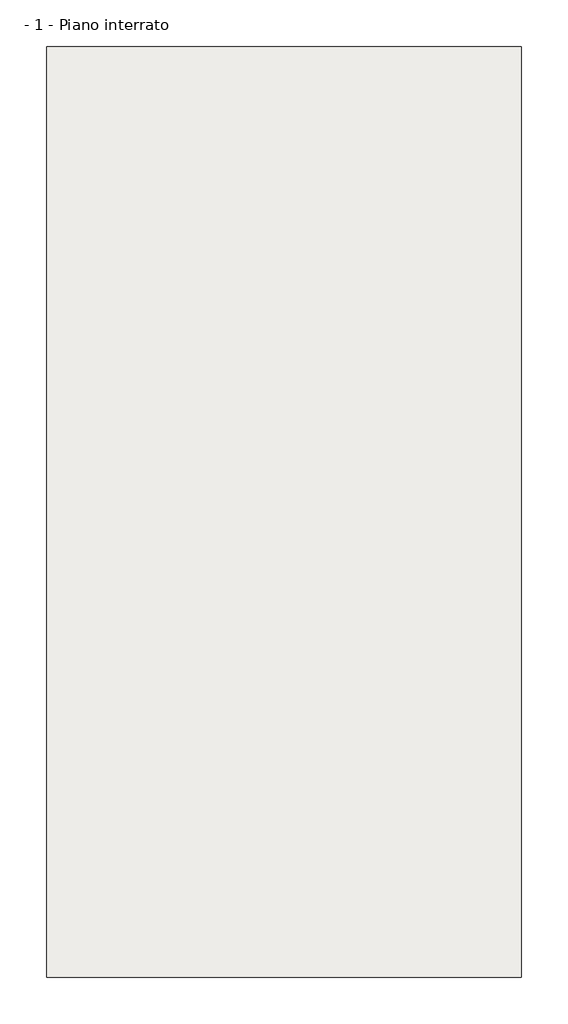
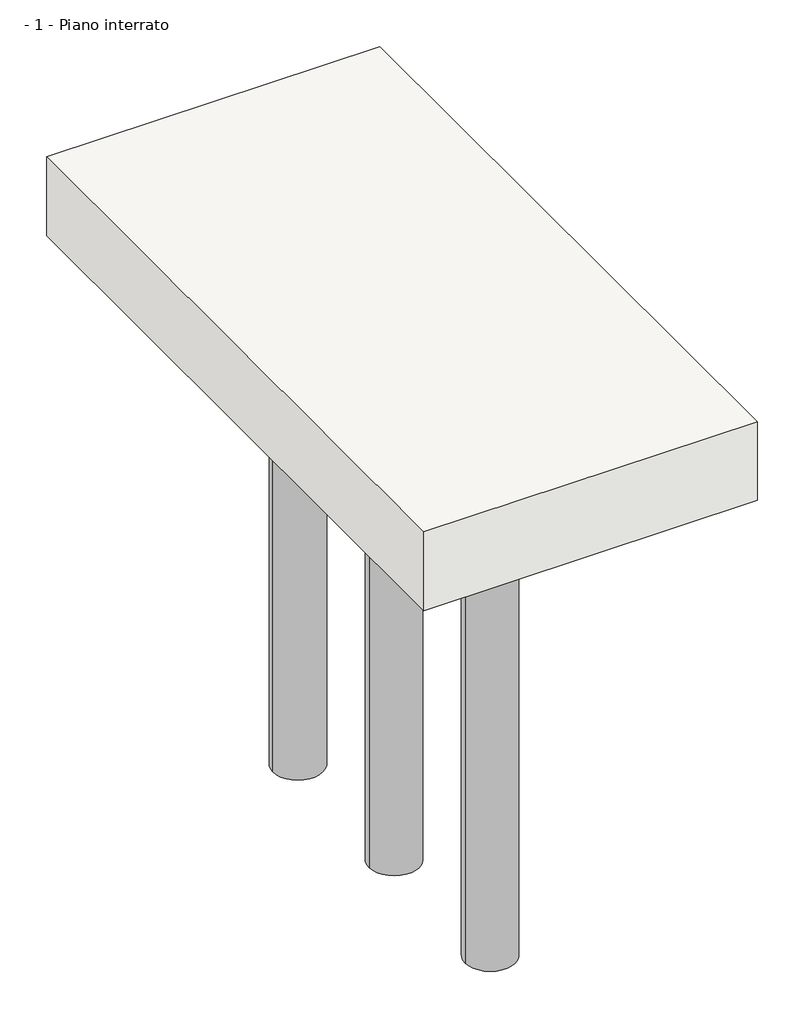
# One storey: 27 proxies, 1 slab.
"""IFC4 building model written with IfcOpenShell, lengths in millimetres."""

import ifcopenshell
import ifcopenshell.guid

model = None  # the IFC model being written
_history = None  # IfcOwnerHistory: only IFC2X3 demands one
_inside = {}  # id of a spatial element -> (the spatial element, [elements in it])
_under = {}  # id of a project, library or spatial element -> (it, [spatial elements below it])
_declared = {}  # id of a project -> (the project, [libraries it declares])
_typed = {}  # id of a type object -> (the type object, [elements of that type])
_made_of = {}  # id of a material, layer set ... -> (it, [elements and type objects made of it])


def new_model(schema):
    """Start an empty IFC model of exactly this schema.

    Asked for "IFC4X3", IfcOpenShell would pick the latest addendum, in which some entities
    have other attributes; the version numbers below select the first issue.
    IFC2X3 requires an IfcOwnerHistory on every rooted entity: one is made here for all.
    """
    global model, _history
    if schema == "IFC4X3":
        model = ifcopenshell.file(schema_version=(4, 3, 0, 0))
    else:
        model = ifcopenshell.file(schema=schema)
    _inside.clear()
    _under.clear()
    _declared.clear()
    _typed.clear()
    _made_of.clear()
    _history = None
    if model.schema == "IFC2X3":
        org = make("IfcOrganization", Name="unknown")
        user = make(
            "IfcPersonAndOrganization",
            ThePerson=make("IfcPerson", FamilyName="unknown"),
            TheOrganization=org,
        )
        app = make(
            "IfcApplication",
            ApplicationDeveloper=org,
            Version="unknown",
            ApplicationFullName="unknown",
            ApplicationIdentifier="unknown",
        )
        _history = make(
            "IfcOwnerHistory",
            OwningUser=user,
            OwningApplication=app,
            ChangeAction="ADDED",
            CreationDate=0,
        )
    return model


def make(cls, **values):
    """One entity of the class cls with the attributes given. An attribute that is None is left unset."""
    return model.create_entity(
        cls, **{name: value for name, value in values.items() if value is not None}
    )


def rooted(cls, **values):
    """An entity with a GlobalId (a new one), such as an element, a storey or a relation."""
    return make(cls, GlobalId=ifcopenshell.guid.new(), OwnerHistory=_history, **values)


def si_unit(unit_type, name, prefix=None):
    """IfcSIUnit, for example si_unit("LENGTHUNIT", "METRE", prefix="MILLI")."""
    return make("IfcSIUnit", UnitType=unit_type, Prefix=prefix, Name=name)


def assignment(units):
    """IfcUnitAssignment: the units of a project."""
    return None if units is None else make("IfcUnitAssignment", Units=units)


def point(xyz):
    """IfcCartesianPoint."""
    return None if xyz is None else make("IfcCartesianPoint", Coordinates=xyz)


def direction(xyz):
    """IfcDirection."""
    return None if xyz is None else make("IfcDirection", DirectionRatios=xyz)


def frame(location, z_axis=None, x_axis=None):
    """IfcAxis2Placement3D, a coordinate frame: its origin and axes. An axis left out is left unset."""
    return make(
        "IfcAxis2Placement3D",
        Location=point(location),
        Axis=direction(z_axis),
        RefDirection=direction(x_axis),
    )


def frame_2d(location, x_axis=None):
    """IfcAxis2Placement2D, a coordinate frame in the plane: its origin and x axis."""
    return make(
        "IfcAxis2Placement2D", Location=point(location), RefDirection=direction(x_axis)
    )


def origin():
    """The frame at (0, 0, 0) with its axes left unset."""
    return frame((0.0, 0.0, 0.0))


def origin_with_axes():
    """The frame at (0, 0, 0) with the z axis (0, 0, 1) and the x axis (1, 0, 0) written out."""
    return frame((0.0, 0.0, 0.0), z_axis=(0.0, 0.0, 1.0), x_axis=(1.0, 0.0, 0.0))


def origin_2d():
    """The frame at (0, 0) in the plane with its x axis left unset."""
    return frame_2d((0.0, 0.0))


def place(relative_to, where):
    """IfcLocalPlacement: puts the frame where relative to a parent placement (None: the world)."""
    return make(
        "IfcLocalPlacement", PlacementRelTo=relative_to, RelativePlacement=where
    )


def context(
    kind, dimensions, precision=None, world=None, true_north=None, identifier=None
):
    """IfcGeometricRepresentationContext, for example the 3D "Model" context."""
    return make(
        "IfcGeometricRepresentationContext",
        ContextIdentifier=identifier,
        ContextType=kind,
        CoordinateSpaceDimension=dimensions,
        Precision=precision,
        WorldCoordinateSystem=world,
        TrueNorth=true_north,
    )


def project(units=None, contexts=None):
    """IfcProject with its units and contexts."""
    return rooted(
        "IfcProject",
        Name="project",
        RepresentationContexts=contexts,
        UnitsInContext=assignment(units),
    )


def spatial(cls, under=None, at=None, **own):
    """A site, building, storey or space (cls), placed at a placement, below another one or the project."""
    s = rooted(cls, ObjectPlacement=at, **own)
    if under is not None:
        _under.setdefault(under.id(), (under, []))[1].append(s)
    return s


def polyline(points):
    """IfcPolyline through the points."""
    return make("IfcPolyline", Points=[point(p) for p in points])


def circle_curve(where, radius):
    """IfcCircle in the frame where."""
    return make("IfcCircle", Position=where, Radius=radius)


def trimmed(basis, trim1, trim2, sense, master):
    """IfcTrimmedCurve: the piece of a basis curve between two trims."""
    return make(
        "IfcTrimmedCurve",
        BasisCurve=basis,
        Trim1=trim1,
        Trim2=trim2,
        SenseAgreement=sense,
        MasterRepresentation=master,
    )


def segment(curve, same_sense, transition):
    """IfcCompositeCurveSegment."""
    return make(
        "IfcCompositeCurveSegment",
        Transition=transition,
        SameSense=same_sense,
        ParentCurve=curve,
    )


def composite_curve(segments, self_intersect=None):
    """IfcCompositeCurve: segments joined end to end."""
    return make("IfcCompositeCurve", Segments=segments, SelfIntersect=self_intersect)


def outline(outer, holes=None, kind="AREA"):
    """IfcArbitraryClosedProfileDef: a profile drawn as a closed curve; with holes, ...WithVoids."""
    if holes is None:
        return make("IfcArbitraryClosedProfileDef", ProfileType=kind, OuterCurve=outer)
    return make(
        "IfcArbitraryProfileDefWithVoids",
        ProfileType=kind,
        OuterCurve=outer,
        InnerCurves=holes,
    )


def extrude(swept, where, along, depth):
    """IfcExtrudedAreaSolid: the profile swept, set in the frame where, extruded along a direction by depth."""
    return make(
        "IfcExtrudedAreaSolid",
        SweptArea=swept,
        Position=where,
        ExtrudedDirection=direction(along),
        Depth=depth,
    )


def shape(context_of_items, identifier, shape_type, items):
    """IfcShapeRepresentation: the items that make up one representation, for example the "Body"."""
    return make(
        "IfcShapeRepresentation",
        ContextOfItems=context_of_items,
        RepresentationIdentifier=identifier,
        RepresentationType=shape_type,
        Items=items,
    )


def source(mapping_origin, context_of_items, identifier, shape_type, items):
    """IfcRepresentationMap: a shape defined once, which mapped items show again and again."""
    return make(
        "IfcRepresentationMap",
        MappingOrigin=mapping_origin,
        MappedRepresentation=shape(context_of_items, identifier, shape_type, items),
    )


def transform(
    local_origin,
    x_axis=None,
    y_axis=None,
    z_axis=None,
    scale=None,
    scale2=None,
    scale3=None,
    uniform=True,
):
    """IfcCartesianTransformationOperator3D, or its non-uniform kind. x_axis, y_axis, z_axis: its Axis1, 2, 3."""
    if uniform:
        return make(
            "IfcCartesianTransformationOperator3D",
            Axis1=direction(x_axis),
            Axis2=direction(y_axis),
            LocalOrigin=point(local_origin),
            Scale=scale,
            Axis3=direction(z_axis),
        )
    return make(
        "IfcCartesianTransformationOperator3DnonUniform",
        Axis1=direction(x_axis),
        Axis2=direction(y_axis),
        LocalOrigin=point(local_origin),
        Scale=scale,
        Axis3=direction(z_axis),
        Scale2=scale2,
        Scale3=scale3,
    )


def mapped(mapping_source, mapping_target):
    """IfcMappedItem: shows the shape of a source again, moved by a transform."""
    return make(
        "IfcMappedItem", MappingSource=mapping_source, MappingTarget=mapping_target
    )


def made_of(thing, what):
    """Note that an element or type object is made of a material, layer set ...; save() writes the relation."""
    if what is not None:
        _made_of.setdefault(what.id(), (what, []))[1].append(thing)
    return thing


def element(
    cls,
    number,
    at=None,
    inside=None,
    cuts=None,
    type_object=None,
    material=None,
    context=None,
    identifier="Body",
    shape_type=None,
    held_by="IfcProductDefinitionShape",
    body=None,
    shapes=None,
    **own,
):
    """One element of the class cls, such as IfcWall. Its Tag is "e" and its number.

    at: its placement. inside: the storey or other place that contains it. cuts: it is an
    opening in that element (IfcRelVoidsElement). A single representation is given by context,
    identifier, shape_type and body (its items); several are given by shapes. held_by: the class
    of the entity that holds the representations. save() writes the other relations.
    """
    e = rooted(cls, Tag="e%d" % number, ObjectPlacement=at, **own)
    if body is not None:
        shapes = [shape(context, identifier, shape_type, body)]
    if shapes is not None:
        e.Representation = make(held_by, Representations=shapes)
    if inside is not None:
        _inside.setdefault(inside.id(), (inside, []))[1].append(e)
    if cuts is not None:
        rooted(
            "IfcRelVoidsElement", RelatingBuildingElement=cuts, RelatedOpeningElement=e
        )
    if type_object is not None:
        _typed.setdefault(type_object.id(), (type_object, []))[1].append(e)
    return made_of(e, material)


def aggregate(whole, parts):
    """IfcRelAggregates: a whole, such as a stair, and the parts it consists of."""
    return rooted("IfcRelAggregates", RelatingObject=whole, RelatedObjects=parts)


def save(model, path):
    """Write the relations noted so far, then the file.

    IfcRelAggregates (storeys below a building ...), IfcRelContainedInSpatialStructure (elements
    in a storey), IfcRelDefinesByType, IfcRelAssociatesMaterial and IfcRelDeclares: one each for
    every whole, place, type object, material and project.
    """
    for whole, parts in _under.values():
        aggregate(whole, parts)
    for where, things in _inside.values():
        rooted(
            "IfcRelContainedInSpatialStructure",
            RelatedElements=things,
            RelatingStructure=where,
        )
    for kind, things in _typed.values():
        rooted("IfcRelDefinesByType", RelatedObjects=things, RelatingType=kind)
    for what, things in _made_of.values():
        rooted("IfcRelAssociatesMaterial", RelatedObjects=things, RelatingMaterial=what)
    for by, libraries in _declared.values():
        rooted("IfcRelDeclares", RelatingContext=by, RelatedDefinitions=libraries)
    model.write(path)


def generic_models_3b7ed561(model_context):
    return source(origin(), model_context, "Body", "SweptSolid", [
        extrude(outline(composite_curve([segment(trimmed(circle_curve(origin_2d(), 5.0), [point((-5.0, 0.0))], [point((5.0, 0.0))], False, "CARTESIAN"), True, "CONTINUOUS"), segment(trimmed(circle_curve(origin_2d(), 5.0), [point((5.0, 0.0))], [point((-5.0, 0.0))], False, "CARTESIAN"), True, "CONTINUOUS")], self_intersect=False)), origin_with_axes(), (0.0, 0.0, 1.0), 200.0),
    ])


def generic_models_04229b53(model_context):
    return source(origin(), model_context, "Body", "SweptSolid", [
        extrude(outline(composite_curve([segment(trimmed(circle_curve(origin_2d(), 5.0), [point((-5.0, 0.0))], [point((5.0, 0.0))], False, "CARTESIAN"), True, "CONTINUOUS"), segment(trimmed(circle_curve(origin_2d(), 5.0), [point((5.0, 0.0))], [point((-5.0, 0.0))], False, "CARTESIAN"), True, "CONTINUOUS")], self_intersect=False)), origin_with_axes(), (0.0, 0.0, 1.0), 200.0),
        extrude(outline(composite_curve([segment(trimmed(circle_curve(origin_2d(), 150.0), [point((-150.0, 0.0))], [point((150.0, 0.0))], False, "CARTESIAN"), True, "CONTINUOUS"), segment(trimmed(circle_curve(origin_2d(), 150.0), [point((150.0, 0.0))], [point((-150.0, 0.0))], False, "CARTESIAN"), True, "CONTINUOUS")], self_intersect=False)), frame((0.0, 0.0, -3100.0), z_axis=(0.0, 0.0, 1.0), x_axis=(1.0, 0.0, 0.0)), (0.0, 0.0, 1.0), 3100.0),
    ])


model = new_model("IFC4")

# Units and contexts
model_context = context("Model", 3, world=origin())
ifc_project = project(units=[si_unit("LENGTHUNIT", "METRE", prefix="MILLI")], contexts=[model_context])

# Site, building, storey
site = spatial("IfcSite", under=ifc_project)
building = spatial("IfcBuilding", under=site)
storey = spatial("IfcBuildingStorey", under=building, Name="- 1 - Piano interrato", Elevation=-2500.0)

# Proxies
placement = place(None, origin())
generic_models_shape = generic_models_3b7ed561(model_context)
element("IfcBuildingElementProxy", 1, Name="ITA-Connettori su struttura orizzontale sigillati con AKTI-VO 201 : ITA-Connettori su struttura orizzontale sigillati con AKTI-VO 201", ObjectType="ITA-Connettori su struttura orizzontale sigillati con AKTI-VO 201 : ITA-Connettori su struttura orizzontale sigillati con AKTI-VO 201", at=placement, inside=storey, context=model_context, shape_type="MappedRepresentation", body=[
    mapped(generic_models_shape, transform((582.2102466, -14657.4319911, -3000.0), x_axis=(-1.0, 0.0, 0.0), y_axis=(0.0, -1.0, 0.0), z_axis=(0.0, 0.0, 1.0))),
])
element("IfcBuildingElementProxy", 2, Name="ITA-Connettori su struttura orizzontale sigillati con AKTI-VO 201 : ITA-Connettori su struttura orizzontale sigillati con AKTI-VO 201", ObjectType="ITA-Connettori su struttura orizzontale sigillati con AKTI-VO 201 : ITA-Connettori su struttura orizzontale sigillati con AKTI-VO 201", at=placement, inside=storey, context=model_context, shape_type="MappedRepresentation", body=[
    mapped(generic_models_shape, transform((707.2102466, -14782.4319911, -3000.0), x_axis=(-1.0, 0.0, 0.0), y_axis=(0.0, -1.0, 0.0), z_axis=(0.0, 0.0, 1.0))),
])
element("IfcBuildingElementProxy", 3, Name="ITA-Connettori su struttura orizzontale sigillati con AKTI-VO 201 : ITA-Connettori su struttura orizzontale sigillati con AKTI-VO 201", ObjectType="ITA-Connettori su struttura orizzontale sigillati con AKTI-VO 201 : ITA-Connettori su struttura orizzontale sigillati con AKTI-VO 201", at=placement, inside=storey, context=model_context, shape_type="MappedRepresentation", body=[
    mapped(generic_models_shape, transform((707.2102466, -14532.4319911, -3000.0), x_axis=(-1.0, 0.0, 0.0), y_axis=(0.0, -1.0, 0.0), z_axis=(0.0, 0.0, 1.0))),
])
element("IfcBuildingElementProxy", 4, Name="ITA-Connettori su struttura orizzontale sigillati con AKTI-VO 201 : ITA-Connettori su struttura orizzontale sigillati con AKTI-VO 201", ObjectType="ITA-Connettori su struttura orizzontale sigillati con AKTI-VO 201 : ITA-Connettori su struttura orizzontale sigillati con AKTI-VO 201", at=placement, inside=storey, context=model_context, shape_type="MappedRepresentation", body=[
    mapped(generic_models_shape, transform((832.2102466, -14657.4319911, -3000.0), x_axis=(-1.0, 0.0, 0.0), y_axis=(0.0, -1.0, 0.0), z_axis=(0.0, 0.0, 1.0))),
])
element("IfcBuildingElementProxy", 5, Name="ITA-Connettori su struttura orizzontale sigillati con AKTI-VO 201 : ITA-Connettori su struttura orizzontale sigillati con AKTI-VO 201", ObjectType="ITA-Connettori su struttura orizzontale sigillati con AKTI-VO 201 : ITA-Connettori su struttura orizzontale sigillati con AKTI-VO 201", at=placement, inside=storey, context=model_context, shape_type="MappedRepresentation", body=[
    mapped(generic_models_shape, transform((795.6055121, -14745.8134074, -3000.0), x_axis=(-1.0, 0.0, 0.0), y_axis=(0.0, -1.0, 0.0), z_axis=(0.0, 0.0, 1.0))),
])
element("IfcBuildingElementProxy", 6, Name="ITA-Connettori su struttura orizzontale sigillati con AKTI-VO 201 : ITA-Connettori su struttura orizzontale sigillati con AKTI-VO 201", ObjectType="ITA-Connettori su struttura orizzontale sigillati con AKTI-VO 201 : ITA-Connettori su struttura orizzontale sigillati con AKTI-VO 201", at=placement, inside=storey, context=model_context, shape_type="MappedRepresentation", body=[
    mapped(generic_models_shape, transform((796.0014898, -14569.498792, -3000.0), x_axis=(-1.0, 0.0, 0.0), y_axis=(0.0, -1.0, 0.0), z_axis=(0.0, 0.0, 1.0))),
])
element("IfcBuildingElementProxy", 7, Name="ITA-Connettori su struttura orizzontale sigillati con AKTI-VO 201 : ITA-Connettori su struttura orizzontale sigillati con AKTI-VO 201", ObjectType="ITA-Connettori su struttura orizzontale sigillati con AKTI-VO 201 : ITA-Connettori su struttura orizzontale sigillati con AKTI-VO 201", at=placement, inside=storey, context=model_context, shape_type="MappedRepresentation", body=[
    mapped(generic_models_shape, transform((618.8411159, -14569.0245304, -3000.0), x_axis=(-1.0, 0.0, 0.0), y_axis=(0.0, -1.0, 0.0), z_axis=(0.0, 0.0, 1.0))),
])
element("IfcBuildingElementProxy", 8, Name="ITA-Connettori su struttura orizzontale sigillati con AKTI-VO 201 : ITA-Connettori su struttura orizzontale sigillati con AKTI-VO 201", ObjectType="ITA-Connettori su struttura orizzontale sigillati con AKTI-VO 201 : ITA-Connettori su struttura orizzontale sigillati con AKTI-VO 201", at=placement, inside=storey, context=model_context, shape_type="MappedRepresentation", body=[
    mapped(generic_models_shape, transform((619.4443611, -14746.3485485, -3000.0), x_axis=(-1.0, 0.0, 0.0), y_axis=(0.0, -1.0, 0.0), z_axis=(0.0, 0.0, 1.0))),
])
element("IfcBuildingElementProxy", 9, Name="ITA-Connettori su struttura orizzontale sigillati con AKTI-VO 201 : ITA-Connettori su struttura orizzontale sigillati con AKTI-VO 201", ObjectType="ITA-Connettori su struttura orizzontale sigillati con AKTI-VO 201 : ITA-Connettori su struttura orizzontale sigillati con AKTI-VO 201", at=placement, inside=storey, context=model_context, shape_type="MappedRepresentation", body=[
    mapped(generic_models_shape, transform((582.2102466, -13657.4319911, -3000.0), x_axis=(-1.0, 0.0, 0.0), y_axis=(0.0, -1.0, 0.0), z_axis=(0.0, 0.0, 1.0))),
])
element("IfcBuildingElementProxy", 10, Name="ITA-Connettori su struttura orizzontale sigillati con AKTI-VO 201 : ITA-Connettori su struttura orizzontale sigillati con AKTI-VO 201", ObjectType="ITA-Connettori su struttura orizzontale sigillati con AKTI-VO 201 : ITA-Connettori su struttura orizzontale sigillati con AKTI-VO 201", at=placement, inside=storey, context=model_context, shape_type="MappedRepresentation", body=[
    mapped(generic_models_shape, transform((707.2102466, -13782.4319911, -3000.0), x_axis=(-1.0, 0.0, 0.0), y_axis=(0.0, -1.0, 0.0), z_axis=(0.0, 0.0, 1.0))),
])
element("IfcBuildingElementProxy", 11, Name="ITA-Connettori su struttura orizzontale sigillati con AKTI-VO 201 : ITA-Connettori su struttura orizzontale sigillati con AKTI-VO 201", ObjectType="ITA-Connettori su struttura orizzontale sigillati con AKTI-VO 201 : ITA-Connettori su struttura orizzontale sigillati con AKTI-VO 201", at=placement, inside=storey, context=model_context, shape_type="MappedRepresentation", body=[
    mapped(generic_models_shape, transform((707.2102466, -13532.4319911, -3000.0), x_axis=(-1.0, 0.0, 0.0), y_axis=(0.0, -1.0, 0.0), z_axis=(0.0, 0.0, 1.0))),
])
element("IfcBuildingElementProxy", 12, Name="ITA-Connettori su struttura orizzontale sigillati con AKTI-VO 201 : ITA-Connettori su struttura orizzontale sigillati con AKTI-VO 201", ObjectType="ITA-Connettori su struttura orizzontale sigillati con AKTI-VO 201 : ITA-Connettori su struttura orizzontale sigillati con AKTI-VO 201", at=placement, inside=storey, context=model_context, shape_type="MappedRepresentation", body=[
    mapped(generic_models_shape, transform((832.2102466, -13657.4319911, -3000.0), x_axis=(-1.0, 0.0, 0.0), y_axis=(0.0, -1.0, 0.0), z_axis=(0.0, 0.0, 1.0))),
])
element("IfcBuildingElementProxy", 13, Name="ITA-Connettori su struttura orizzontale sigillati con AKTI-VO 201 : ITA-Connettori su struttura orizzontale sigillati con AKTI-VO 201", ObjectType="ITA-Connettori su struttura orizzontale sigillati con AKTI-VO 201 : ITA-Connettori su struttura orizzontale sigillati con AKTI-VO 201", at=placement, inside=storey, context=model_context, shape_type="MappedRepresentation", body=[
    mapped(generic_models_shape, transform((795.6055121, -13745.8134074, -3000.0), x_axis=(-1.0, 0.0, 0.0), y_axis=(0.0, -1.0, 0.0), z_axis=(0.0, 0.0, 1.0))),
])
element("IfcBuildingElementProxy", 14, Name="ITA-Connettori su struttura orizzontale sigillati con AKTI-VO 201 : ITA-Connettori su struttura orizzontale sigillati con AKTI-VO 201", ObjectType="ITA-Connettori su struttura orizzontale sigillati con AKTI-VO 201 : ITA-Connettori su struttura orizzontale sigillati con AKTI-VO 201", at=placement, inside=storey, context=model_context, shape_type="MappedRepresentation", body=[
    mapped(generic_models_shape, transform((796.0014898, -13569.498792, -3000.0), x_axis=(-1.0, 0.0, 0.0), y_axis=(0.0, -1.0, 0.0), z_axis=(0.0, 0.0, 1.0))),
])
element("IfcBuildingElementProxy", 15, Name="ITA-Connettori su struttura orizzontale sigillati con AKTI-VO 201 : ITA-Connettori su struttura orizzontale sigillati con AKTI-VO 201", ObjectType="ITA-Connettori su struttura orizzontale sigillati con AKTI-VO 201 : ITA-Connettori su struttura orizzontale sigillati con AKTI-VO 201", at=placement, inside=storey, context=model_context, shape_type="MappedRepresentation", body=[
    mapped(generic_models_shape, transform((618.8411159, -13569.0245304, -3000.0), x_axis=(-1.0, 0.0, 0.0), y_axis=(0.0, -1.0, 0.0), z_axis=(0.0, 0.0, 1.0))),
])
element("IfcBuildingElementProxy", 16, Name="ITA-Connettori su struttura orizzontale sigillati con AKTI-VO 201 : ITA-Connettori su struttura orizzontale sigillati con AKTI-VO 201", ObjectType="ITA-Connettori su struttura orizzontale sigillati con AKTI-VO 201 : ITA-Connettori su struttura orizzontale sigillati con AKTI-VO 201", at=placement, inside=storey, context=model_context, shape_type="MappedRepresentation", body=[
    mapped(generic_models_shape, transform((619.4443611, -13746.3485485, -3000.0), x_axis=(-1.0, 0.0, 0.0), y_axis=(0.0, -1.0, 0.0), z_axis=(0.0, 0.0, 1.0))),
])
element("IfcBuildingElementProxy", 17, Name="ITA-Connettori su struttura orizzontale sigillati con AKTI-VO 201 : ITA-Connettori su struttura orizzontale sigillati con AKTI-VO 201", ObjectType="ITA-Connettori su struttura orizzontale sigillati con AKTI-VO 201 : ITA-Connettori su struttura orizzontale sigillati con AKTI-VO 201", at=placement, inside=storey, context=model_context, shape_type="MappedRepresentation", body=[
    mapped(generic_models_shape, transform((582.2102466, -12657.4319911, -3000.0), x_axis=(-1.0, 0.0, 0.0), y_axis=(0.0, -1.0, 0.0), z_axis=(0.0, 0.0, 1.0))),
])
element("IfcBuildingElementProxy", 18, Name="ITA-Connettori su struttura orizzontale sigillati con AKTI-VO 201 : ITA-Connettori su struttura orizzontale sigillati con AKTI-VO 201", ObjectType="ITA-Connettori su struttura orizzontale sigillati con AKTI-VO 201 : ITA-Connettori su struttura orizzontale sigillati con AKTI-VO 201", at=placement, inside=storey, context=model_context, shape_type="MappedRepresentation", body=[
    mapped(generic_models_shape, transform((707.2102466, -12782.4319911, -3000.0), x_axis=(-1.0, 0.0, 0.0), y_axis=(0.0, -1.0, 0.0), z_axis=(0.0, 0.0, 1.0))),
])
element("IfcBuildingElementProxy", 19, Name="ITA-Connettori su struttura orizzontale sigillati con AKTI-VO 201 : ITA-Connettori su struttura orizzontale sigillati con AKTI-VO 201", ObjectType="ITA-Connettori su struttura orizzontale sigillati con AKTI-VO 201 : ITA-Connettori su struttura orizzontale sigillati con AKTI-VO 201", at=placement, inside=storey, context=model_context, shape_type="MappedRepresentation", body=[
    mapped(generic_models_shape, transform((707.2102466, -12532.4319911, -3000.0), x_axis=(-1.0, 0.0, 0.0), y_axis=(0.0, -1.0, 0.0), z_axis=(0.0, 0.0, 1.0))),
])
element("IfcBuildingElementProxy", 20, Name="ITA-Connettori su struttura orizzontale sigillati con AKTI-VO 201 : ITA-Connettori su struttura orizzontale sigillati con AKTI-VO 201", ObjectType="ITA-Connettori su struttura orizzontale sigillati con AKTI-VO 201 : ITA-Connettori su struttura orizzontale sigillati con AKTI-VO 201", at=placement, inside=storey, context=model_context, shape_type="MappedRepresentation", body=[
    mapped(generic_models_shape, transform((832.2102466, -12657.4319911, -3000.0), x_axis=(-1.0, 0.0, 0.0), y_axis=(0.0, -1.0, 0.0), z_axis=(0.0, 0.0, 1.0))),
])
element("IfcBuildingElementProxy", 21, Name="ITA-Connettori su struttura orizzontale sigillati con AKTI-VO 201 : ITA-Connettori su struttura orizzontale sigillati con AKTI-VO 201", ObjectType="ITA-Connettori su struttura orizzontale sigillati con AKTI-VO 201 : ITA-Connettori su struttura orizzontale sigillati con AKTI-VO 201", at=placement, inside=storey, context=model_context, shape_type="MappedRepresentation", body=[
    mapped(generic_models_shape, transform((795.6055121, -12745.8134074, -3000.0), x_axis=(-1.0, 0.0, 0.0), y_axis=(0.0, -1.0, 0.0), z_axis=(0.0, 0.0, 1.0))),
])
element("IfcBuildingElementProxy", 22, Name="ITA-Connettori su struttura orizzontale sigillati con AKTI-VO 201 : ITA-Connettori su struttura orizzontale sigillati con AKTI-VO 201", ObjectType="ITA-Connettori su struttura orizzontale sigillati con AKTI-VO 201 : ITA-Connettori su struttura orizzontale sigillati con AKTI-VO 201", at=placement, inside=storey, context=model_context, shape_type="MappedRepresentation", body=[
    mapped(generic_models_shape, transform((796.0014898, -12569.498792, -3000.0), x_axis=(-1.0, 0.0, 0.0), y_axis=(0.0, -1.0, 0.0), z_axis=(0.0, 0.0, 1.0))),
])
element("IfcBuildingElementProxy", 23, Name="ITA-Connettori su struttura orizzontale sigillati con AKTI-VO 201 : ITA-Connettori su struttura orizzontale sigillati con AKTI-VO 201", ObjectType="ITA-Connettori su struttura orizzontale sigillati con AKTI-VO 201 : ITA-Connettori su struttura orizzontale sigillati con AKTI-VO 201", at=placement, inside=storey, context=model_context, shape_type="MappedRepresentation", body=[
    mapped(generic_models_shape, transform((618.8411159, -12569.0245304, -3000.0), x_axis=(-1.0, 0.0, 0.0), y_axis=(0.0, -1.0, 0.0), z_axis=(0.0, 0.0, 1.0))),
])
element("IfcBuildingElementProxy", 24, Name="ITA-Connettori su struttura orizzontale sigillati con AKTI-VO 201 : ITA-Connettori su struttura orizzontale sigillati con AKTI-VO 201", ObjectType="ITA-Connettori su struttura orizzontale sigillati con AKTI-VO 201 : ITA-Connettori su struttura orizzontale sigillati con AKTI-VO 201", at=placement, inside=storey, context=model_context, shape_type="MappedRepresentation", body=[
    mapped(generic_models_shape, transform((619.4443611, -12746.3485485, -3000.0), x_axis=(-1.0, 0.0, 0.0), y_axis=(0.0, -1.0, 0.0), z_axis=(0.0, 0.0, 1.0))),
])
generic_models_2_shape = generic_models_04229b53(model_context)
element("IfcBuildingElementProxy", 25, Name="ITA-Palo di fondazione con Amphibia passante : ITA-Palo di fondazione con Amphibia passante", ObjectType="ITA-Palo di fondazione con Amphibia passante : ITA-Palo di fondazione con Amphibia passante", at=placement, inside=storey, context=model_context, shape_type="MappedRepresentation", body=[
    mapped(generic_models_2_shape, transform((707.2102466, -14657.4319911, -3010.0), x_axis=(-1.0, 0.0, 0.0), y_axis=(0.0, -1.0, 0.0), z_axis=(0.0, 0.0, 1.0))),
])
element("IfcBuildingElementProxy", 26, Name="ITA-Palo di fondazione con Amphibia passante : ITA-Palo di fondazione con Amphibia passante", ObjectType="ITA-Palo di fondazione con Amphibia passante : ITA-Palo di fondazione con Amphibia passante", at=placement, inside=storey, context=model_context, shape_type="MappedRepresentation", body=[
    mapped(generic_models_2_shape, transform((707.2102466, -13657.4319911, -3010.0), x_axis=(-1.0, 0.0, 0.0), y_axis=(0.0, -1.0, 0.0), z_axis=(0.0, 0.0, 1.0))),
])
element("IfcBuildingElementProxy", 27, Name="ITA-Palo di fondazione con Amphibia passante : ITA-Palo di fondazione con Amphibia passante", ObjectType="ITA-Palo di fondazione con Amphibia passante : ITA-Palo di fondazione con Amphibia passante", at=placement, inside=storey, context=model_context, shape_type="MappedRepresentation", body=[
    mapped(generic_models_2_shape, transform((707.2102466, -12657.4319911, -3010.0), x_axis=(-1.0, 0.0, 0.0), y_axis=(0.0, -1.0, 0.0), z_axis=(0.0, 0.0, 1.0))),
])

# Slab
element("IfcSlab", 28, ObjectType="Platea - 50 cm", at=placement, inside=storey, context=model_context, shape_type="SweptSolid", body=[
    extrude(outline(polyline([(1747.3707384, -11707.4457024), (1747.3707384, -15630.7761472), (-252.6292616, -15630.7761472), (-252.6292616, -11707.4457024), (1747.3707384, -11707.4457024)])), frame((0.0, 0.0, -3000.0), z_axis=(0.0, 0.0, 1.0), x_axis=(1.0, 0.0, 0.0)), (0.0, 0.0, 1.0), 500.0),
])

save(model, "model.ifc")
